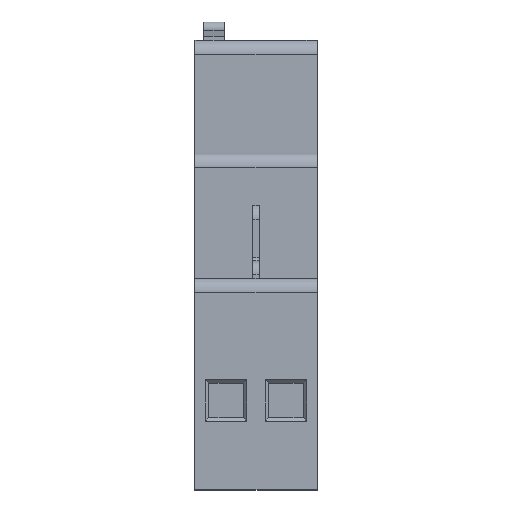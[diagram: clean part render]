
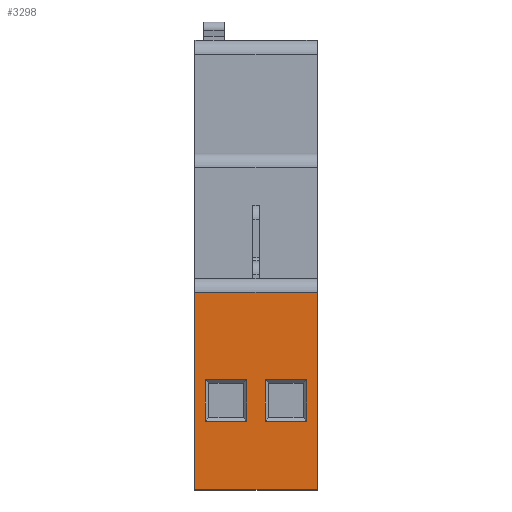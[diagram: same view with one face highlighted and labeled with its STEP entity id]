
A CAD part, front view. The second image highlights one B-rep face of the part: STEP entity #3298.
In plain terms, the highlighted planar face has unit normal (0, -1, 0).
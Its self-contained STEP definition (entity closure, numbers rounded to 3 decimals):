
#58 = VERTEX_POINT ( 'NONE', #1177 ) ;
#108 = LINE ( 'NONE', #1542, #3489 ) ;
#114 = EDGE_CURVE ( 'NONE', #2492, #4489, #3427, .T. ) ;
#116 = LINE ( 'NONE', #4081, #1047 ) ;
#126 = LINE ( 'NONE', #1477, #1121 ) ;
#237 = CARTESIAN_POINT ( 'NONE',  ( 0., 0., 28.496 ) ) ;
#304 = LINE ( 'NONE', #1008, #665 ) ;
#342 = ORIENTED_EDGE ( 'NONE', *, *, #3370, .T. ) ;
#427 = VERTEX_POINT ( 'NONE', #1665 ) ;
#498 = EDGE_LOOP ( 'NONE', ( #342, #1111, #3129, #1327 ) ) ;
#557 = CARTESIAN_POINT ( 'NONE',  ( 10.1, 0., 28.496 ) ) ;
#609 = LINE ( 'NONE', #557, #4407 ) ;
#617 = LINE ( 'NONE', #2186, #3234 ) ;
#665 = VECTOR ( 'NONE', #4543, 1000. ) ;
#706 = CARTESIAN_POINT ( 'NONE',  ( 7.5, 0., 15.9 ) ) ;
#833 = EDGE_LOOP ( 'NONE', ( #904, #3532, #3239, #1380 ) ) ;
#834 = ORIENTED_EDGE ( 'NONE', *, *, #2582, .T. ) ;
#872 = CARTESIAN_POINT ( 'NONE',  ( 16.1, 0., 9.9 ) ) ;
#904 = ORIENTED_EDGE ( 'NONE', *, *, #2830, .T. ) ;
#936 = EDGE_CURVE ( 'NONE', #2492, #2416, #1756, .T. ) ;
#953 = CARTESIAN_POINT ( 'NONE',  ( 17.6, 0., 28.496 ) ) ;
#1008 = CARTESIAN_POINT ( 'NONE',  ( 0., 0., 9.9 ) ) ;
#1033 = CARTESIAN_POINT ( 'NONE',  ( 7.5, 0., 28.496 ) ) ;
#1047 = VECTOR ( 'NONE', #1601, 1000. ) ;
#1106 = EDGE_CURVE ( 'NONE', #4579, #3238, #1192, .T. ) ;
#1111 = ORIENTED_EDGE ( 'NONE', *, *, #3803, .F. ) ;
#1121 = VECTOR ( 'NONE', #3264, 1000. ) ;
#1177 = CARTESIAN_POINT ( 'NONE',  ( 7.5, 0., 9.9 ) ) ;
#1192 = LINE ( 'NONE', #2555, #2915 ) ;
#1327 = ORIENTED_EDGE ( 'NONE', *, *, #936, .T. ) ;
#1344 = VECTOR ( 'NONE', #4486, 1000. ) ;
#1357 = FACE_BOUND ( 'NONE', #4605, .T. ) ;
#1380 = ORIENTED_EDGE ( 'NONE', *, *, #1841, .T. ) ;
#1477 = CARTESIAN_POINT ( 'NONE',  ( 17.6, 0., 28.496 ) ) ;
#1480 = LINE ( 'NONE', #1033, #3361 ) ;
#1542 = CARTESIAN_POINT ( 'NONE',  ( 0., 0., 9.9 ) ) ;
#1554 = LINE ( 'NONE', #1971, #2037 ) ;
#1601 = DIRECTION ( 'NONE',  ( 1., 0., 0. ) ) ;
#1649 = LINE ( 'NONE', #3060, #1344 ) ;
#1650 = VECTOR ( 'NONE', #2126, 1000. ) ;
#1665 = CARTESIAN_POINT ( 'NONE',  ( 1.5, 0., 9.9 ) ) ;
#1693 = DIRECTION ( 'NONE',  ( 0., 0., 1. ) ) ;
#1756 = LINE ( 'NONE', #1778, #1650 ) ;
#1759 = ORIENTED_EDGE ( 'NONE', *, *, #1986, .T. ) ;
#1778 = CARTESIAN_POINT ( 'NONE',  ( 0., 0., 0. ) ) ;
#1787 = CARTESIAN_POINT ( 'NONE',  ( 1.5, 0., 15.9 ) ) ;
#1830 = DIRECTION ( 'NONE',  ( 0., 1., 0. ) ) ;
#1836 = DIRECTION ( 'NONE',  ( 0., 0., -1. ) ) ;
#1841 = EDGE_CURVE ( 'NONE', #3238, #58, #1480, .T. ) ;
#1946 = VERTEX_POINT ( 'NONE', #3664 ) ;
#1971 = CARTESIAN_POINT ( 'NONE',  ( 0., 0., 15.9 ) ) ;
#1986 = EDGE_CURVE ( 'NONE', #2398, #1946, #609, .T. ) ;
#2037 = VECTOR ( 'NONE', #3384, 1000. ) ;
#2051 = VERTEX_POINT ( 'NONE', #4428 ) ;
#2085 = ORIENTED_EDGE ( 'NONE', *, *, #2572, .T. ) ;
#2126 = DIRECTION ( 'NONE',  ( 1., 0., 0. ) ) ;
#2182 = CARTESIAN_POINT ( 'NONE',  ( 0., 0., 28.496 ) ) ;
#2186 = CARTESIAN_POINT ( 'NONE',  ( 16.1, 0., 28.496 ) ) ;
#2219 = DIRECTION ( 'NONE',  ( -1., 0., 0. ) ) ;
#2349 = CARTESIAN_POINT ( 'NONE',  ( 0., 0., 0. ) ) ;
#2398 = VERTEX_POINT ( 'NONE', #3648 ) ;
#2416 = VERTEX_POINT ( 'NONE', #3218 ) ;
#2456 = DIRECTION ( 'NONE',  ( 0., 0., -1. ) ) ;
#2492 = VERTEX_POINT ( 'NONE', #2349 ) ;
#2555 = CARTESIAN_POINT ( 'NONE',  ( 0., 0., 15.9 ) ) ;
#2572 = EDGE_CURVE ( 'NONE', #1946, #2051, #1554, .T. ) ;
#2582 = EDGE_CURVE ( 'NONE', #2051, #3847, #617, .T. ) ;
#2602 = AXIS2_PLACEMENT_3D ( 'NONE', #2913, #1830, #3286 ) ;
#2766 = VECTOR ( 'NONE', #1693, 1000. ) ;
#2779 = FACE_BOUND ( 'NONE', #833, .T. ) ;
#2830 = EDGE_CURVE ( 'NONE', #58, #427, #108, .T. ) ;
#2913 = CARTESIAN_POINT ( 'NONE',  ( 0., 0., 28.496 ) ) ;
#2915 = VECTOR ( 'NONE', #2977, 1000. ) ;
#2972 = PLANE ( 'NONE',  #2602 ) ;
#2977 = DIRECTION ( 'NONE',  ( 1., 0., 0. ) ) ;
#3060 = CARTESIAN_POINT ( 'NONE',  ( 1.5, 0., 28.496 ) ) ;
#3094 = ORIENTED_EDGE ( 'NONE', *, *, #3204, .T. ) ;
#3129 = ORIENTED_EDGE ( 'NONE', *, *, #114, .F. ) ;
#3204 = EDGE_CURVE ( 'NONE', #3847, #2398, #304, .T. ) ;
#3218 = CARTESIAN_POINT ( 'NONE',  ( 17.6, 0., 0. ) ) ;
#3234 = VECTOR ( 'NONE', #1836, 1000. ) ;
#3238 = VERTEX_POINT ( 'NONE', #706 ) ;
#3239 = ORIENTED_EDGE ( 'NONE', *, *, #1106, .T. ) ;
#3264 = DIRECTION ( 'NONE',  ( 0., 0., 1. ) ) ;
#3286 = DIRECTION ( 'NONE',  ( -1., 0., 0. ) ) ;
#3298 = ADVANCED_FACE ( 'NONE', ( #1357, #2779, #4205 ), #2972, .F. ) ;
#3361 = VECTOR ( 'NONE', #2456, 1000. ) ;
#3370 = EDGE_CURVE ( 'NONE', #2416, #3538, #126, .T. ) ;
#3384 = DIRECTION ( 'NONE',  ( 1., 0., 0. ) ) ;
#3427 = LINE ( 'NONE', #237, #2766 ) ;
#3489 = VECTOR ( 'NONE', #2219, 1000. ) ;
#3532 = ORIENTED_EDGE ( 'NONE', *, *, #4046, .T. ) ;
#3538 = VERTEX_POINT ( 'NONE', #953 ) ;
#3648 = CARTESIAN_POINT ( 'NONE',  ( 10.1, 0., 9.9 ) ) ;
#3664 = CARTESIAN_POINT ( 'NONE',  ( 10.1, 0., 15.9 ) ) ;
#3803 = EDGE_CURVE ( 'NONE', #4489, #3538, #116, .T. ) ;
#3847 = VERTEX_POINT ( 'NONE', #872 ) ;
#4046 = EDGE_CURVE ( 'NONE', #427, #4579, #1649, .T. ) ;
#4081 = CARTESIAN_POINT ( 'NONE',  ( 0., 0., 28.496 ) ) ;
#4105 = DIRECTION ( 'NONE',  ( 0., 0., 1. ) ) ;
#4205 = FACE_OUTER_BOUND ( 'NONE', #498, .T. ) ;
#4407 = VECTOR ( 'NONE', #4105, 1000. ) ;
#4428 = CARTESIAN_POINT ( 'NONE',  ( 16.1, 0., 15.9 ) ) ;
#4486 = DIRECTION ( 'NONE',  ( 0., 0., 1. ) ) ;
#4489 = VERTEX_POINT ( 'NONE', #2182 ) ;
#4543 = DIRECTION ( 'NONE',  ( -1., 0., 0. ) ) ;
#4579 = VERTEX_POINT ( 'NONE', #1787 ) ;
#4605 = EDGE_LOOP ( 'NONE', ( #3094, #1759, #2085, #834 ) ) ;
